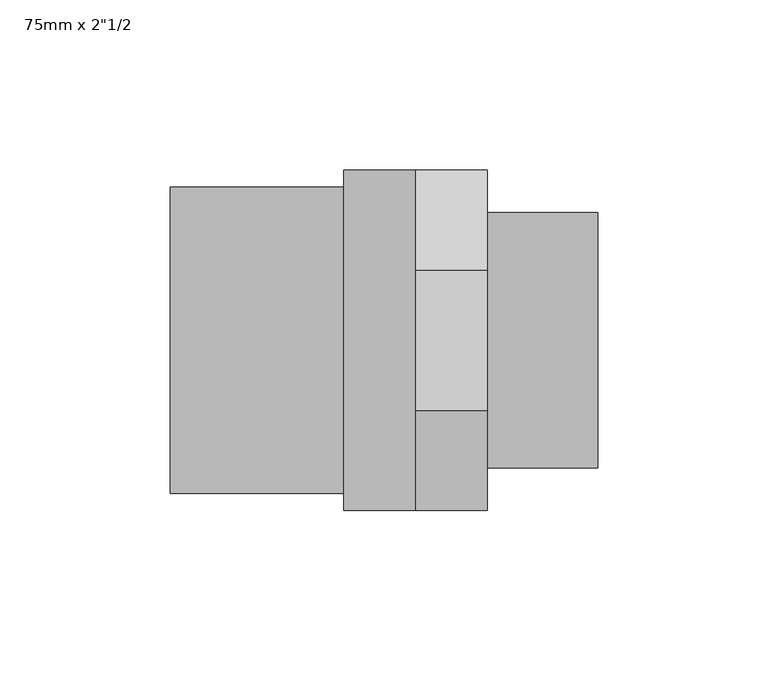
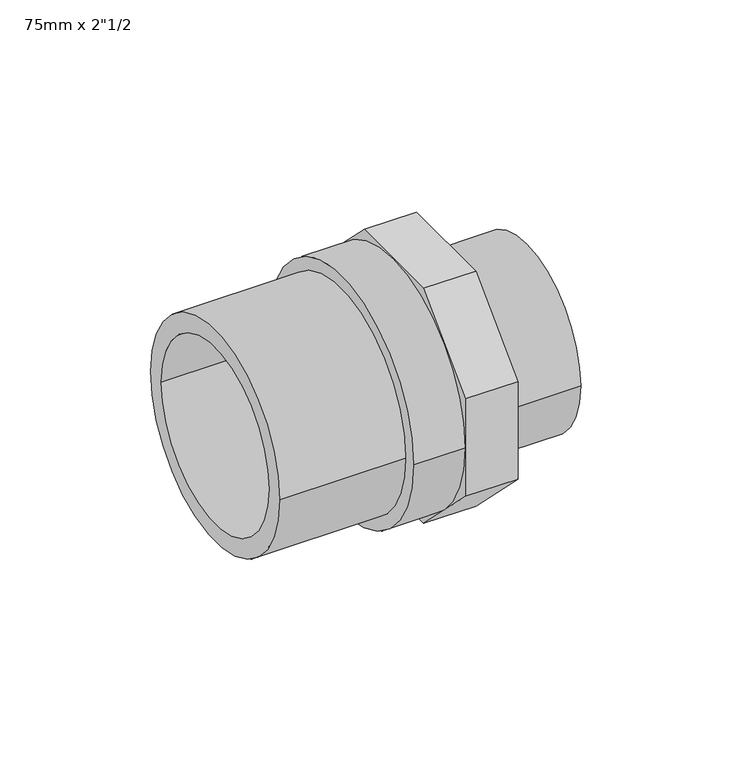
"""IFC4 building model written with IfcOpenShell, lengths in millimetres: pipe fitting geometry."""

from ifc_helpers import new_model, si_unit, point, frame, origin, origin_2d, place, context, project, spatial, polyline, circle_curve, trimmed, segment, composite_curve, outline, extrude, source, transform, mapped, element, save


def pipe_fitting_5466f294(model_context):
    return source(origin(), model_context, "Body", "SweptSolid", [
        extrude(outline(composite_curve([segment(trimmed(circle_curve(origin_2d(), 37.5), [point((-37.5, 0.0))], [point((37.5, 0.0))], False, "CARTESIAN"), True, "CONTINUOUS"), segment(trimmed(circle_curve(origin_2d(), 37.5), [point((37.5, 0.0))], [point((-37.5, 0.0))], False, "CARTESIAN"), True, "CONTINUOUS")], self_intersect=False), holes=[composite_curve([segment(trimmed(circle_curve(origin_2d(), 33.0), [point((-33.0, 0.0))], [point((33.0, 0.0))], True, "CARTESIAN"), True, "CONTINUOUS"), segment(trimmed(circle_curve(origin_2d(), 33.0), [point((33.0, 0.0))], [point((-33.0, 0.0))], True, "CARTESIAN"), True, "CONTINUOUS")], self_intersect=False)]), frame((30.25, 0.0, 0.0), z_axis=(1.0, 0.0, 0.0), x_axis=(0.0, 1.0, 0.0)), (0.0, 0.0, 1.0), 32.5),
        extrude(outline(polyline([(20.7106781, 50.0), (50.0, 20.7106781), (50.0, -20.7106781), (20.7106781, -50.0), (-20.7106781, -50.0), (-50.0, -20.7106781), (-50.0, 20.7106781), (-20.7106781, 50.0), (20.7106781, 50.0)]), holes=[composite_curve([segment(trimmed(circle_curve(origin_2d(), 33.0), [point((-33.0, 0.0))], [point((33.0, 0.0))], True, "CARTESIAN"), True, "CONTINUOUS"), segment(trimmed(circle_curve(origin_2d(), 33.0), [point((33.0, 0.0))], [point((-33.0, 0.0))], True, "CARTESIAN"), True, "CONTINUOUS")], self_intersect=False)]), frame((9.25, 0.0, 0.0), z_axis=(1.0, 0.0, 0.0), x_axis=(0.0, 1.0, 0.0)), (0.0, 0.0, 1.0), 21.0),
        extrude(outline(composite_curve([segment(trimmed(circle_curve(origin_2d(), 50.0), [point((-50.0, 0.0))], [point((50.0, 0.0))], False, "CARTESIAN"), True, "CONTINUOUS"), segment(trimmed(circle_curve(origin_2d(), 50.0), [point((50.0, 0.0))], [point((-50.0, 0.0))], False, "CARTESIAN"), True, "CONTINUOUS")], self_intersect=False), holes=[composite_curve([segment(trimmed(circle_curve(origin_2d(), 33.0), [point((-33.0, 0.0))], [point((33.0, 0.0))], True, "CARTESIAN"), True, "CONTINUOUS"), segment(trimmed(circle_curve(origin_2d(), 33.0), [point((33.0, 0.0))], [point((-33.0, 0.0))], True, "CARTESIAN"), True, "CONTINUOUS")], self_intersect=False)]), frame((-11.75, 0.0, 0.0), z_axis=(1.0, 0.0, 0.0), x_axis=(0.0, 1.0, 0.0)), (0.0, 0.0, 1.0), 21.0),
        extrude(outline(composite_curve([segment(trimmed(circle_curve(origin_2d(), 45.0), [point((-45.0, 0.0))], [point((45.0, 0.0))], False, "CARTESIAN"), True, "CONTINUOUS"), segment(trimmed(circle_curve(origin_2d(), 45.0), [point((45.0, 0.0))], [point((-45.0, 0.0))], False, "CARTESIAN"), True, "CONTINUOUS")], self_intersect=False), holes=[composite_curve([segment(trimmed(circle_curve(origin_2d(), 37.5), [point((-37.5, 0.0))], [point((37.5, 0.0))], True, "CARTESIAN"), True, "CONTINUOUS"), segment(trimmed(circle_curve(origin_2d(), 37.5), [point((37.5, 0.0))], [point((-37.5, 0.0))], True, "CARTESIAN"), True, "CONTINUOUS")], self_intersect=False)]), frame((-62.75, 0.0, 0.0), z_axis=(1.0, 0.0, 0.0), x_axis=(0.0, 1.0, 0.0)), (0.0, 0.0, 1.0), 51.0),
    ])


if __name__ == "__main__":
    model = new_model("IFC4")
    model_context = context("Model", 3, world=origin())
    ifc_project = project(units=[si_unit("LENGTHUNIT", "METRE", prefix="MILLI")], contexts=[model_context])
    site = spatial("IfcSite", under=ifc_project)
    building = spatial("IfcBuilding", under=site)
    placement = place(None, origin())
    pipe_fitting_shape = pipe_fitting_5466f294(model_context)
    element("IfcPipeFitting", 1, ObjectType="PipeFitting_HTA_CPVC_AdaptorNipplesA : 75mm x 2\"1/2", at=placement, inside=building, context=model_context, shape_type="MappedRepresentation", body=[
        mapped(pipe_fitting_shape, transform((0.0, 0.0, 0.0), x_axis=(1.0, 0.0, 0.0), y_axis=(0.0, 1.0, 0.0), z_axis=(0.0, 0.0, 1.0))),
    ])
    save(model, "model.ifc")
